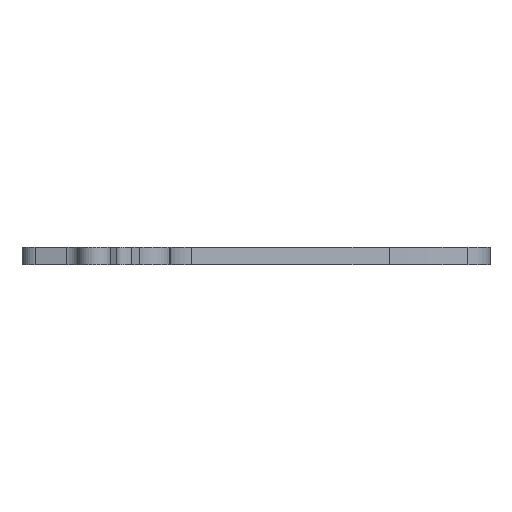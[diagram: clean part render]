
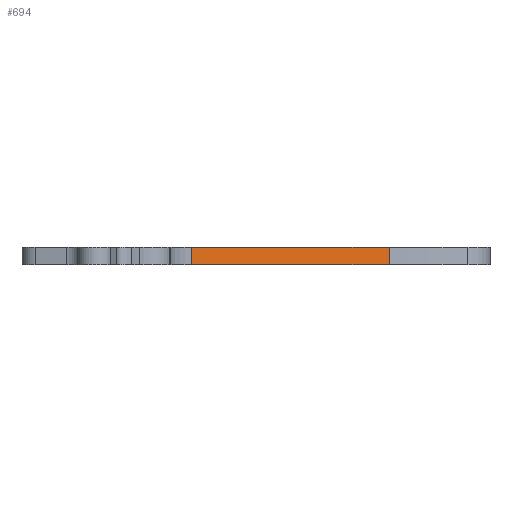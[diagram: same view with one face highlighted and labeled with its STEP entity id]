
A CAD part, left-side view. The second image highlights one B-rep face of the part: STEP entity #694.
In plain terms, the highlighted planar face has unit normal (-0.799, -0.602, 0).
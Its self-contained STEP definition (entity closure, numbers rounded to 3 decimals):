
#47=PLANE('',#776);
#80=FACE_OUTER_BOUND('',#115,.T.);
#115=EDGE_LOOP('',(#566,#567,#568,#569));
#184=LINE('',#1183,#243);
#185=LINE('',#1186,#244);
#186=LINE('',#1188,#245);
#187=LINE('',#1189,#246);
#243=VECTOR('',#963,10.);
#244=VECTOR('',#966,10.);
#245=VECTOR('',#967,10.);
#246=VECTOR('',#968,10.);
#343=VERTEX_POINT('',#1179);
#344=VERTEX_POINT('',#1181);
#345=VERTEX_POINT('',#1185);
#346=VERTEX_POINT('',#1187);
#438=EDGE_CURVE('',#343,#344,#184,.T.);
#439=EDGE_CURVE('',#345,#343,#185,.T.);
#440=EDGE_CURVE('',#346,#344,#186,.T.);
#441=EDGE_CURVE('',#345,#346,#187,.T.);
#566=ORIENTED_EDGE('',*,*,#439,.T.);
#567=ORIENTED_EDGE('',*,*,#438,.T.);
#568=ORIENTED_EDGE('',*,*,#440,.F.);
#569=ORIENTED_EDGE('',*,*,#441,.F.);
#694=ADVANCED_FACE('',(#80),#47,.T.);
#776=AXIS2_PLACEMENT_3D('',#1184,#964,#965);
#963=DIRECTION('',(0.,0.,1.));
#964=DIRECTION('center_axis',(-0.799,-0.602,0.));
#965=DIRECTION('ref_axis',(0.602,-0.799,0.));
#966=DIRECTION('',(0.602,-0.799,0.));
#967=DIRECTION('',(0.602,-0.799,0.));
#968=DIRECTION('',(0.,0.,1.));
#1179=CARTESIAN_POINT('',(-12.226,9.578,0.));
#1181=CARTESIAN_POINT('',(-12.226,9.578,2.6));
#1183=CARTESIAN_POINT('',(-12.226,9.578,0.));
#1184=CARTESIAN_POINT('Origin',(-34.515,39.157,0.));
#1185=CARTESIAN_POINT('',(-34.515,39.157,0.));
#1186=CARTESIAN_POINT('',(-34.515,39.157,0.));
#1187=CARTESIAN_POINT('',(-34.515,39.157,2.6));
#1188=CARTESIAN_POINT('',(-34.515,39.157,2.6));
#1189=CARTESIAN_POINT('',(-34.515,39.157,0.));
